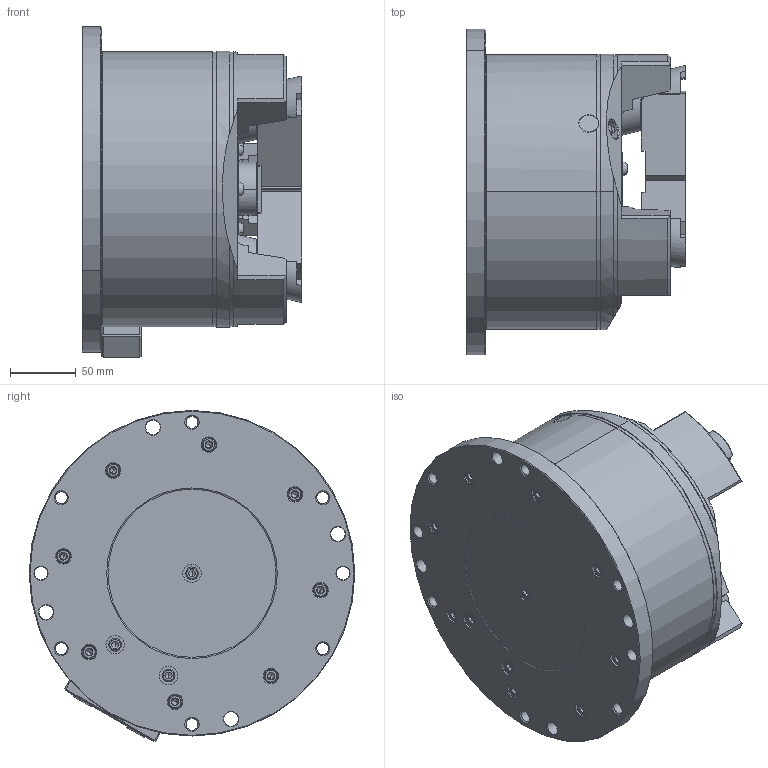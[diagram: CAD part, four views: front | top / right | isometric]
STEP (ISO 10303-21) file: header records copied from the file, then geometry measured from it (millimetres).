
FILE_DESCRIPTION (( 'STEP AP214' ), '1' );
FILE_NAME ('PLS08_CL.STEP', '2020-06-25T23:35:49', ( '' ), ( '' ), 'SwSTEP 2.0', 'SolidWorks 2017', '' );
FILE_SCHEMA (( 'AUTOMOTIVE_DESIGN' ));
Length unit declared in the file: millimetre
Products named in the file (4): PLS08_CL; 結合; 0030112030; 61P367087
Assembly tree (7 placements, depth 2):
  PLS08_CL
    61P367087  x3
    0030112030  x3
    結合
Bounding box: 167.5 x 248 x 252.19 mm (x, y, z)
Volume: 4645778.3 mm3; surface area: 289199.2 mm2
Topology: 7 solids, 15 shells, 1463 faces, 3597 edges, 2226 vertices
Faces by surface type: plane 652, cone 359, cylinder 246, bspline 173, torus 33
Entity records: 50583 total; most frequent: CARTESIAN_POINT 19838, ORIENTED_EDGE 6606, DIRECTION 5829, EDGE_CURVE 3303, VERTEX_POINT 2080, AXIS2_PLACEMENT_3D 2057, LINE 1715, VECTOR 1715
